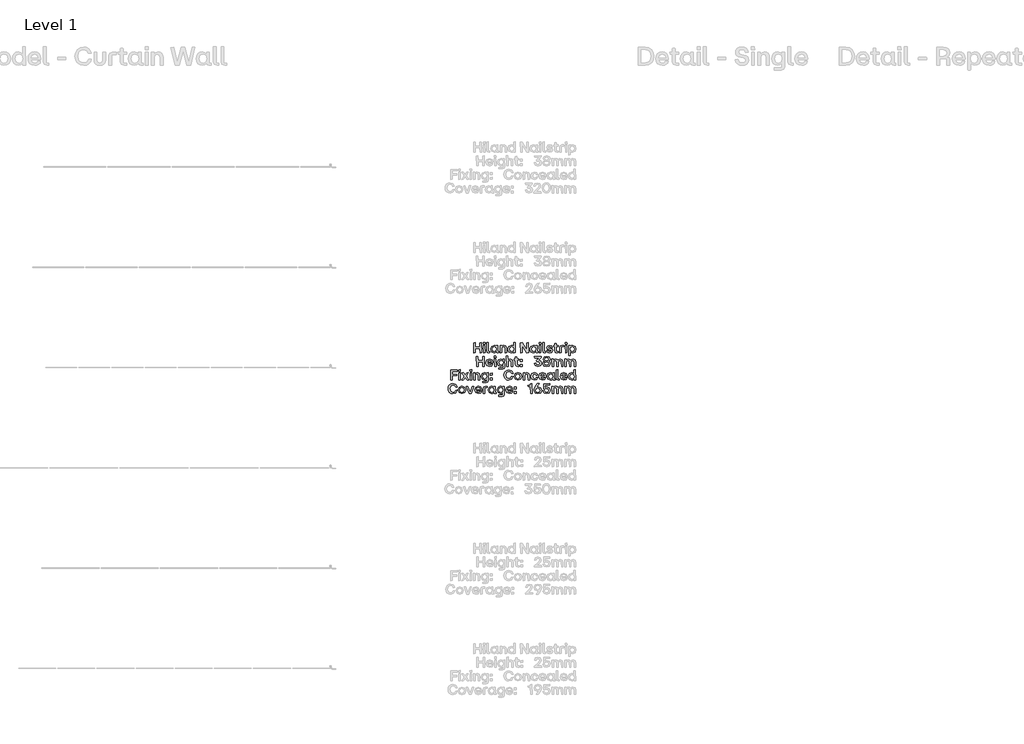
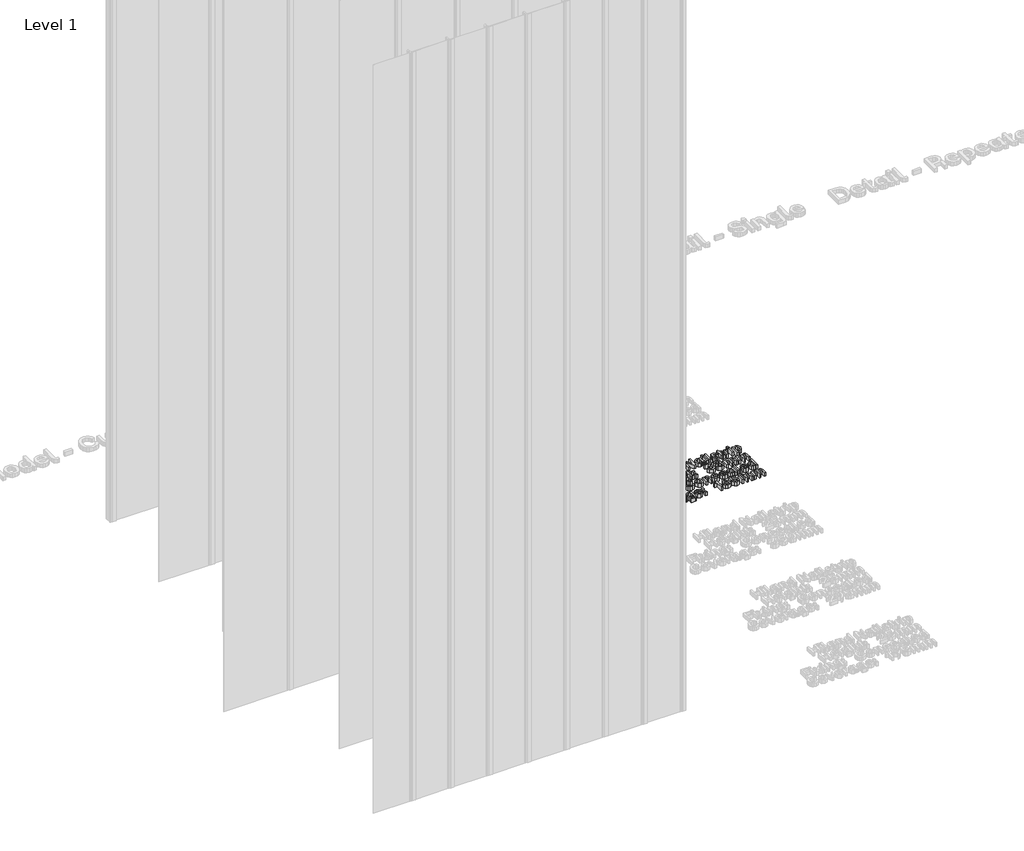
# One storey, part 27 of 64: 1 proxy.
"""IFC4 building model written with IfcOpenShell, lengths in millimetres."""

from ifc_helpers import new_model, si_unit, origin, origin_with_axes, place, context, project, spatial, polyline, outline, extrude, element, save

model = new_model("IFC4")

# Units and contexts
model_context = context("Model", 3, world=origin())
ifc_project = project(units=[si_unit("LENGTHUNIT", "METRE", prefix="MILLI")], contexts=[model_context])

# Site, building, storey
site = spatial("IfcSite", under=ifc_project)
building = spatial("IfcBuilding", under=site)
storey = spatial("IfcBuildingStorey", under=building, Name="Level 1", Elevation=0.0)

# Proxy
placement = place(None, origin())
element("IfcBuildingElementProxy", 1, Name="50mm", ObjectType="50mm", at=placement, inside=storey, context=model_context, shape_type="SweptSolid", body=[
    extrude(outline(polyline([(2520.0683519, -2933.5188866), (2519.3710201, -2911.5808277), (2495.5222721, -2911.5808277), (2495.5222721, -2932.8215548), (2488.0189817, -2933.5188866), (2487.2937566, -2884.2454206), (2494.7831003, -2883.5201955), (2495.5222721, -2904.6075096), (2519.3710201, -2904.6075096), (2519.3710201, -2884.2454206), (2526.8603638, -2883.5201955), (2527.5576956, -2932.8215548), (2520.0683519, -2933.5188866)])), origin_with_axes(), (0.0, 0.0, 1.0), 20.0),
    extrude(outline(polyline([(2537.6550603, -2933.5188866), (2536.9298352, -2897.8154977), (2544.1402462, -2897.1181659), (2544.837578, -2932.8215548), (2537.6550603, -2933.5188866)])), origin_with_axes(), (0.0, 0.0, 1.0), 20.0),
    extrude(outline(polyline([(2536.7206357, -2890.4516737), (2536.3719698, -2882.4044646), (2544.7678448, -2881.6652929), (2545.5070165, -2890.1030078), (2536.7206357, -2890.4516737)])), origin_with_axes(), (0.0, 0.0, 1.0), 20.0),
    extrude(outline(polyline([(2564.2373491, -2933.5188866), (2556.5388058, -2930.8690257), (2553.8889449, -2923.1565359), (2553.8889449, -2882.8228637), (2561.0993559, -2882.083692), (2561.7966877, -2927.2429003), (2568.4631799, -2927.2429003), (2569.1605117, -2932.8215548), (2564.2373491, -2933.5188866)])), origin_with_axes(), (0.0, 0.0, 1.0), 20.0),
    extrude(outline(polyline([(2589.3273478, -2933.9372857), (2577.5563867, -2928.8955767), (2573.1771429, -2915.3882594), (2577.5563867, -2901.7484491), (2589.3273478, -2896.6579269), (2595.9450267, -2898.2617901), (2600.9309491, -2902.6549805), (2601.2517218, -2897.8154977), (2608.4342395, -2897.1181659), (2609.1594646, -2927.2429003), (2613.1063626, -2927.2429003), (2613.8036944, -2932.8215548), (2607.8066408, -2933.5188866), (2603.151951, -2932.2113895), (2601.6003877, -2928.288898), (2596.2448794, -2932.3334225), (2589.3273478, -2933.9372857)]), holes=[polyline([(2581.2382987, -2915.3882594), (2583.9927594, -2924.2792401), (2591.5169696, -2927.521833), (2598.8807936, -2924.2931867), (2601.5306545, -2915.3882594), (2598.8598737, -2906.392679), (2591.5169696, -2903.1152195), (2583.9927594, -2906.392679), (2581.2382987, -2915.3882594)])]), origin_with_axes(), (0.0, 0.0, 1.0), 20.0),
    extrude(outline(polyline([(2620.6654395, -2933.5188866), (2619.9402144, -2897.8154977), (2626.8019595, -2897.1181659), (2627.4992913, -2902.6549805), (2632.6630334, -2898.1571903), (2639.2841989, -2896.6579269), (2648.8446181, -2900.8419178), (2652.1569442, -2913.0870644), (2652.1569442, -2932.8215548), (2644.9325866, -2933.5188866), (2644.2073616, -2913.0870644), (2642.2548325, -2905.7092939), (2636.0834459, -2903.3941522), (2629.8562728, -2905.7441604), (2627.8479572, -2913.0870644), (2627.8479572, -2932.8215548), (2620.6654395, -2933.5188866)])), origin_with_axes(), (0.0, 0.0, 1.0), 20.0),
    extrude(outline(polyline([(2675.0154811, -2933.9372857), (2663.2445201, -2928.8955767), (2658.8652763, -2915.3882594), (2663.2445201, -2901.7484491), (2675.0154811, -2896.6579269), (2681.63316, -2898.2617901), (2686.6190825, -2902.6549805), (2686.9398552, -2882.8228637), (2694.1223728, -2882.083692), (2694.8475979, -2932.8215548), (2687.9858529, -2933.5188866), (2687.2885211, -2928.0099653), (2681.9330127, -2932.3334225), (2675.0154811, -2933.9372857)]), holes=[polyline([(2666.9264321, -2915.3882594), (2669.6808927, -2924.2792401), (2677.205103, -2927.521833), (2684.568927, -2924.2931867), (2687.2187879, -2915.3882594), (2684.548007, -2906.392679), (2677.205103, -2903.1152195), (2669.6808927, -2906.392679), (2666.9264321, -2915.3882594)])]), origin_with_axes(), (0.0, 0.0, 1.0), 20.0),
    extrude(outline(polyline([(2721.8761791, -2933.5188866), (2721.150954, -2884.2454206), (2730.007068, -2883.5201955), (2753.2979506, -2920.7856077), (2753.5768834, -2884.2454206), (2760.7872943, -2883.5201955), (2761.4846261, -2932.8215548), (2752.670352, -2933.5188866), (2729.3794694, -2896.2395278), (2729.1005367, -2932.8215548), (2721.8761791, -2933.5188866)])), origin_with_axes(), (0.0, 0.0, 1.0), 20.0),
    extrude(outline(polyline([(2784.803402, -2933.9372857), (2773.032441, -2928.8955767), (2768.6531972, -2915.3882594), (2773.032441, -2901.7484491), (2784.803402, -2896.6579269), (2791.4210809, -2898.2617901), (2796.4070034, -2902.6549805), (2796.727776, -2897.8154977), (2803.9102937, -2897.1181659), (2804.6355188, -2927.2429003), (2808.5824169, -2927.2429003), (2809.2797487, -2932.8215548), (2803.2826951, -2933.5188866), (2798.6280052, -2932.2113895), (2797.076442, -2928.288898), (2791.7209336, -2932.3334225), (2784.803402, -2933.9372857)]), holes=[polyline([(2776.714353, -2915.3882594), (2779.4688136, -2924.2792401), (2786.9930239, -2927.521833), (2794.3568479, -2924.2931867), (2797.0067088, -2915.3882594), (2794.3359279, -2906.392679), (2786.9930239, -2903.1152195), (2779.4688136, -2906.392679), (2776.714353, -2915.3882594)])]), origin_with_axes(), (0.0, 0.0, 1.0), 20.0),
    extrude(outline(polyline([(2815.2070691, -2890.4516737), (2814.8584032, -2882.4044646), (2823.2542783, -2881.6652929), (2823.99345, -2890.1030078), (2815.2070691, -2890.4516737)])), origin_with_axes(), (0.0, 0.0, 1.0), 20.0),
    extrude(outline(polyline([(2816.1414938, -2933.5188866), (2815.4162687, -2897.8154977), (2822.6266796, -2897.1181659), (2823.3240115, -2932.8215548), (2816.1414938, -2933.5188866)])), origin_with_axes(), (0.0, 0.0, 1.0), 20.0),
    extrude(outline(polyline([(2842.7237825, -2933.5188866), (2835.0252393, -2930.8690257), (2832.3753784, -2923.1565359), (2832.3753784, -2882.8228637), (2839.5857894, -2882.083692), (2840.2831212, -2927.2429003), (2846.9496133, -2927.2429003), (2847.6469451, -2932.8215548), (2842.7237825, -2933.5188866)])), origin_with_axes(), (0.0, 0.0, 1.0), 20.0),
    extrude(outline(polyline([(2867.283809, -2933.9372857), (2856.5518724, -2930.9875721), (2852.0819755, -2922.5289372), (2859.0274004, -2921.7339789), (2862.109607, -2926.5455685), (2867.283809, -2927.8007657), (2871.7467327, -2926.6153017), (2873.420329, -2923.4354686), (2872.2209183, -2920.5764081), (2868.1624471, -2919.0841181), (2863.0719249, -2918.1775867), (2855.3454884, -2914.6351411), (2852.8490405, -2907.5363032), (2856.5100325, -2899.6215871), (2866.3772777, -2896.6579269), (2876.0701899, -2899.4123876), (2880.2960207, -2907.2294772), (2873.3505958, -2908.0244355), (2870.6031085, -2903.8613645), (2866.3772777, -2902.7944469), (2862.1235536, -2903.8962311), (2860.6591568, -2907.0900108), (2861.7051545, -2909.8584181), (2865.5125862, -2911.3716282), (2870.9517744, -2912.3897326), (2878.9641169, -2915.8763917), (2881.2304453, -2923.0170695), (2877.6043199, -2931.1130919), (2867.283809, -2933.9372857)])), origin_with_axes(), (0.0, 0.0, 1.0), 20.0),
    extrude(outline(polyline([(2903.0429845, -2933.5188866), (2895.3304946, -2930.8690257), (2892.6806337, -2923.1565359), (2892.6806337, -2903.3941522), (2886.4743806, -2903.3941522), (2885.7491555, -2897.8154977), (2892.6806337, -2897.1181659), (2892.6806337, -2887.104481), (2899.9049913, -2886.3792559), (2900.6023231, -2897.1181659), (2909.388704, -2897.1181659), (2910.1139291, -2902.6549805), (2900.6023231, -2903.3941522), (2900.6023231, -2927.2429003), (2909.388704, -2927.2429003), (2910.1139291, -2932.8215548), (2903.0429845, -2933.5188866)])), origin_with_axes(), (0.0, 0.0, 1.0), 20.0),
    extrude(outline(polyline([(2917.519593, -2933.5188866), (2916.8222612, -2907.4386768), (2919.4721221, -2899.7471068), (2927.1706653, -2897.1181659), (2937.3238165, -2897.1181659), (2938.0211483, -2903.1152195), (2924.7300039, -2903.8125513), (2924.7300039, -2932.8215548), (2917.519593, -2933.5188866)])), origin_with_axes(), (0.0, 0.0, 1.0), 20.0),
    extrude(outline(polyline([(2945.5662786, -2933.5188866), (2944.8410535, -2897.8154977), (2952.0514644, -2897.1181659), (2952.7487962, -2932.8215548), (2945.5662786, -2933.5188866)])), origin_with_axes(), (0.0, 0.0, 1.0), 20.0),
    extrude(outline(polyline([(2944.6318539, -2890.4516737), (2944.283188, -2882.4044646), (2952.6790631, -2881.6652929), (2953.4182348, -2890.1030078), (2944.6318539, -2890.4516737)])), origin_with_axes(), (0.0, 0.0, 1.0), 20.0),
    extrude(outline(polyline([(2962.5253883, -2947.0750171), (2961.8001632, -2897.8154977), (2968.6619083, -2897.1181659), (2969.3592401, -2902.5852473), (2974.7147484, -2898.2617901), (2981.63228, -2896.6579269), (2993.403241, -2901.7135826), (2997.7824848, -2915.2487931), (2993.403241, -2928.8607101), (2981.63228, -2933.9372857), (2975.0146011, -2932.3334225), (2970.0286786, -2927.9402321), (2969.707906, -2946.3776853), (2962.5253883, -2947.0750171)]), holes=[polyline([(2969.4289732, -2915.2487931), (2972.0997541, -2924.2443735), (2979.4426581, -2927.521833), (2986.9668684, -2924.2443735), (2989.7213291, -2915.2487931), (2986.9668684, -2906.3578124), (2979.4426581, -2903.1152195), (2972.0788341, -2906.3368925), (2969.4289732, -2915.2487931)])]), origin_with_axes(), (0.0, 0.0, 1.0), 20.0),
    extrude(outline(polyline([(2534.3497075, -3001.3705811), (2533.6523757, -2979.4325222), (2509.8036276, -2979.4325222), (2509.8036276, -3000.6732493), (2502.3003373, -3001.3705811), (2501.5751122, -2952.0971151), (2509.0644559, -2951.37189), (2509.8036276, -2972.459204), (2533.6523757, -2972.459204), (2533.6523757, -2952.0971151), (2541.1417194, -2951.37189), (2541.8390512, -3000.6732493), (2534.3497075, -3001.3705811)])), origin_with_axes(), (0.0, 0.0, 1.0), 20.0),
    extrude(outline(polyline([(2567.4869153, -3001.7889802), (2554.0841978, -2996.7472711), (2549.0773554, -2983.2399539), (2554.0632779, -2969.586197), (2567.4869153, -2964.5096214), (2579.7669286, -2969.5164638), (2584.2647188, -2983.1702207), (2584.2647188, -2985.0809099), (2557.2082444, -2985.8200816), (2560.2765044, -2992.8631329), (2567.4869153, -2995.3735275), (2573.2747694, -2994.0974102), (2576.2732962, -2990.520098), (2583.3581874, -2989.9343393), (2578.7000109, -2998.6998002), (2567.4869153, -3001.7889802)]), holes=[polyline([(2557.2779776, -2980.0322275), (2576.4824957, -2980.0322275), (2573.8396081, -2973.3866554), (2567.4869153, -2970.966914), (2560.3950508, -2973.2681089), (2557.2779776, -2980.0322275)])]), origin_with_axes(), (0.0, 0.0, 1.0), 20.0),
    extrude(outline(polyline([(2591.1683037, -2958.3033682), (2590.8196378, -2950.2561591), (2599.2155129, -2949.5169873), (2599.9546846, -2957.9547023), (2591.1683037, -2958.3033682)])), origin_with_axes(), (0.0, 0.0, 1.0), 20.0),
    extrude(outline(polyline([(2592.1027284, -3001.3705811), (2591.3775033, -2965.6671922), (2598.5879142, -2964.9698603), (2599.2852461, -3000.6732493), (2592.1027284, -3001.3705811)])), origin_with_axes(), (0.0, 0.0, 1.0), 20.0),
    extrude(outline(polyline([(2613.7758012, -3014.9267115), (2613.0366294, -3009.348057), (2634.2773565, -3008.6507252), (2634.2773565, -2995.7919266), (2628.9706614, -3000.185117), (2622.3529825, -3001.7889802), (2610.5820215, -2996.7124045), (2606.2027777, -2983.1004875), (2610.5820215, -2969.565277), (2622.3529825, -2964.5096214), (2629.2705141, -2966.1134845), (2634.3470897, -2970.4369418), (2634.6260224, -2965.6671922), (2641.4598742, -2964.9698603), (2642.1850993, -3004.9269733), (2639.6049716, -3012.3675038), (2632.1853611, -3014.9267115), (2613.7758012, -3014.9267115)]), holes=[polyline([(2614.2639334, -2983.1004875), (2617.0183941, -2992.0960679), (2624.5426044, -2995.3735275), (2631.8855084, -2992.0960679), (2634.5562892, -2983.1004875), (2631.9064284, -2974.1885869), (2624.5426044, -2970.966914), (2617.0183941, -2974.2095069), (2614.2639334, -2983.1004875)])]), origin_with_axes(), (0.0, 0.0, 1.0), 20.0),
    extrude(outline(polyline([(2651.9059048, -3001.3705811), (2651.1806797, -2950.6745581), (2658.3910907, -2949.9353864), (2659.0884225, -2970.2277422), (2664.1754581, -2965.9391516), (2670.5246642, -2964.5096214), (2680.0850834, -2968.6936122), (2683.3974095, -2980.9387589), (2683.3974095, -3000.6732493), (2676.1730519, -3001.3705811), (2675.4478269, -2980.9387589), (2673.4952978, -2973.5609883), (2667.3239112, -2971.2458467), (2661.0967381, -2973.5958549), (2659.0884225, -2980.9387589), (2659.0884225, -3000.6732493), (2651.9059048, -3001.3705811)])), origin_with_axes(), (0.0, 0.0, 1.0), 20.0),
    extrude(outline(polyline([(2706.6743455, -3001.3705811), (2698.9618556, -2998.7207202), (2696.3119947, -2991.0082303), (2696.3119947, -2971.2458467), (2690.1057416, -2971.2458467), (2689.3805165, -2965.6671922), (2696.3119947, -2964.9698603), (2696.3119947, -2954.9561755), (2703.5363523, -2954.2309504), (2704.2336842, -2964.9698603), (2713.020065, -2964.9698603), (2713.7452901, -2970.506675), (2704.2336842, -2971.2458467), (2704.2336842, -2995.0945947), (2713.020065, -2995.0945947), (2713.7452901, -3000.6732493), (2706.6743455, -3001.3705811)])), origin_with_axes(), (0.0, 0.0, 1.0), 20.0),
    extrude(outline(polyline([(2721.150954, -2977.7310326), (2720.4536222, -2968.1078535), (2729.9373348, -2967.3686818), (2730.6625599, -2977.0337007), (2721.150954, -2977.7310326)])), origin_with_axes(), (0.0, 0.0, 1.0), 20.0),
    extrude(outline(polyline([(2720.8022881, -3001.0219152), (2720.4536222, -2991.747402), (2729.9373348, -2991.0082303), (2730.6625599, -3000.6732493), (2720.8022881, -3001.0219152)])), origin_with_axes(), (0.0, 0.0, 1.0), 20.0),
    extrude(outline(polyline([(2808.2755909, -3001.7889802), (2794.8798467, -2997.7235357), (2789.0571261, -2985.959548), (2796.42095, -2985.1506431), (2800.584021, -2992.7236666), (2808.2755909, -2994.9551284), (2815.4162687, -2992.5493336), (2818.0661296, -2985.959548), (2815.2977223, -2979.0908296), (2806.6298878, -2976.8942344), (2801.1906997, -2976.8942344), (2800.4933678, -2972.8078699), (2813.8542454, -2958.6520341), (2791.1491215, -2958.3731014), (2790.4238964, -2952.0971151), (2824.1329164, -2951.37189), (2824.8302482, -2956.1834795), (2811.9296096, -2970.0882759), (2822.6545729, -2975.2136647), (2826.2667517, -2985.959548), (2821.4202956, -2997.5352561), (2808.2755909, -3001.7889802)])), origin_with_axes(), (0.0, 0.0, 1.0), 20.0),
    extrude(outline(polyline([(2865.4289064, -2998.1768014), (2851.3846437, -3001.7889802), (2837.3124877, -2998.1768014), (2832.3753784, -2987.8702371), (2834.8509064, -2980.1368273), (2841.5104252, -2975.8063967), (2835.9457173, -2971.1691402), (2834.0908147, -2964.370155), (2838.7768845, -2954.5796163), (2851.3776704, -2950.9534909), (2863.9645096, -2954.5796163), (2868.6366328, -2964.370155), (2866.7817301, -2971.1691402), (2861.2170223, -2975.527464), (2867.8765411, -2980.1368273), (2870.352069, -2987.8702371), (2865.4289064, -2998.1768014)]), holes=[polyline([(2840.5760005, -2986.9358125), (2843.2781613, -2992.9502994), (2851.3846437, -2994.9551284), (2859.4597461, -2992.9502994), (2862.1514469, -2986.9358125), (2859.4597461, -2981.3606446), (2851.3846437, -2979.5022554), (2843.2781613, -2981.3606446), (2840.5760005, -2986.9358125)]), polyline([(2842.3193301, -2965.4579926), (2844.6553917, -2970.8065276), (2851.3846437, -2972.6684036), (2858.1138957, -2970.8065276), (2860.4499573, -2965.4579926), (2858.1138957, -2959.788685), (2851.3846437, -2957.8152359), (2844.6553917, -2959.788685), (2842.3193301, -2965.4579926)])]), origin_with_axes(), (0.0, 0.0, 1.0), 20.0),
    extrude(outline(polyline([(2878.6224244, -3001.3705811), (2877.8971993, -2965.6671922), (2884.7589443, -2964.9698603), (2885.4562761, -2970.506675), (2890.4421986, -2966.0088848), (2896.8925179, -2964.5096214), (2903.1789642, -2966.0088848), (2907.394335, -2970.506675), (2913.2170557, -2966.0646713), (2920.4623332, -2964.5096214), (2929.7368464, -2968.6796656), (2932.9445727, -2980.9387589), (2932.9445727, -3000.6732493), (2925.7341617, -3001.3705811), (2925.0368299, -2980.9387589), (2923.154034, -2973.5609883), (2917.1848737, -2971.2458467), (2911.2784732, -2973.5958549), (2909.3747574, -2980.9387589), (2909.3747574, -3000.6732493), (2902.1643464, -3001.3705811), (2901.4670146, -2980.9387589), (2899.5981653, -2973.5609883), (2893.6847915, -2971.2458467), (2887.7086579, -2973.5958549), (2885.804942, -2980.9387589), (2885.804942, -3000.6732493), (2878.6224244, -3001.3705811)])), origin_with_axes(), (0.0, 0.0, 1.0), 20.0),
    extrude(outline(polyline([(2941.9959397, -3001.3705811), (2941.2707146, -2965.6671922), (2948.1324596, -2964.9698603), (2948.8297914, -2970.506675), (2953.8157139, -2966.0088848), (2960.2660332, -2964.5096214), (2966.5524795, -2966.0088848), (2970.7678503, -2970.506675), (2976.590571, -2966.0646713), (2983.8358485, -2964.5096214), (2993.1103617, -2968.6796656), (2996.318088, -2980.9387589), (2996.318088, -3000.6732493), (2989.1076771, -3001.3705811), (2988.4103452, -2980.9387589), (2986.5275493, -2973.5609883), (2980.558389, -2971.2458467), (2974.6519885, -2973.5958549), (2972.7482727, -2980.9387589), (2972.7482727, -3000.6732493), (2965.5378617, -3001.3705811), (2964.8405299, -2980.9387589), (2962.9716806, -2973.5609883), (2957.0583069, -2971.2458467), (2951.0821732, -2973.5958549), (2949.1784574, -2980.9387589), (2949.1784574, -3000.6732493), (2941.9959397, -3001.3705811)])), origin_with_axes(), (0.0, 0.0, 1.0), 20.0),
    extrude(outline(polyline([(2374.6607219, -3069.2222755), (2373.9354969, -3019.9488095), (2405.5246281, -3019.2235844), (2406.2219599, -3025.527464), (2382.1640123, -3026.2247958), (2382.1640123, -3041.287163), (2404.0881245, -3041.287163), (2404.7854563, -3047.5631494), (2382.1640123, -3048.3023211), (2382.1640123, -3068.5249437), (2374.6607219, -3069.2222755)])), origin_with_axes(), (0.0, 0.0, 1.0), 20.0),
    extrude(outline(polyline([(2414.4783686, -3069.2222755), (2413.7531435, -3033.5188866), (2420.9635544, -3032.8215548), (2421.6608863, -3068.5249437), (2414.4783686, -3069.2222755)])), origin_with_axes(), (0.0, 0.0, 1.0), 20.0),
    extrude(outline(polyline([(2413.5439439, -3026.1550627), (2413.195278, -3018.1078535), (2421.5911531, -3017.3686818), (2422.3303248, -3025.8063967), (2413.5439439, -3026.1550627)])), origin_with_axes(), (0.0, 0.0, 1.0), 20.0),
    extrude(outline(polyline([(2428.5784179, -3069.2222755), (2441.3395901, -3050.7429824), (2429.1362833, -3033.658353), (2437.1277059, -3032.8215548), (2445.9140868, -3044.815662), (2454.1426022, -3033.2399539), (2462.2595445, -3032.8215548), (2450.6559431, -3049.9340775), (2463.696048, -3068.3436374), (2455.7046254, -3069.2222755), (2445.9838199, -3055.7916648), (2436.7093068, -3068.8038764), (2428.5784179, -3069.2222755)])), origin_with_axes(), (0.0, 0.0, 1.0), 20.0),
    extrude(outline(polyline([(2470.7112061, -3069.2222755), (2469.985981, -3033.5188866), (2477.196392, -3032.8215548), (2477.8937238, -3068.5249437), (2470.7112061, -3069.2222755)])), origin_with_axes(), (0.0, 0.0, 1.0), 20.0),
    extrude(outline(polyline([(2469.7767815, -3026.1550627), (2469.4281156, -3018.1078535), (2477.8239906, -3017.3686818), (2478.5631623, -3025.8063967), (2469.7767815, -3026.1550627)])), origin_with_axes(), (0.0, 0.0, 1.0), 20.0),
    extrude(outline(polyline([(2487.6703158, -3069.2222755), (2486.9450907, -3033.5188866), (2493.8068358, -3032.8215548), (2494.5041676, -3038.3583694), (2499.6679097, -3033.8605792), (2506.2890753, -3032.3613158), (2515.8494944, -3036.5453067), (2519.1618206, -3048.7904534), (2519.1618206, -3068.5249437), (2511.937463, -3069.2222755), (2511.2122379, -3048.7904534), (2509.2597088, -3041.4126828), (2503.0883222, -3039.0975411), (2496.8611491, -3041.4475493), (2494.8528335, -3048.7904534), (2494.8528335, -3068.5249437), (2487.6703158, -3069.2222755)])), origin_with_axes(), (0.0, 0.0, 1.0), 20.0),
    extrude(outline(polyline([(2533.4431761, -3082.778406), (2532.7040044, -3077.1997515), (2553.9447315, -3076.5024197), (2553.9447315, -3063.643621), (2548.6380364, -3068.0368114), (2542.0203574, -3069.6406746), (2530.2493964, -3064.564099), (2525.8701526, -3050.952182), (2530.2493964, -3037.4169715), (2542.0203574, -3032.3613158), (2548.9378891, -3033.965179), (2554.0144647, -3038.2886362), (2554.2933974, -3033.5188866), (2561.1272492, -3032.8215548), (2561.8524743, -3072.7786678), (2559.2723465, -3080.2191982), (2551.852736, -3082.778406), (2533.4431761, -3082.778406)]), holes=[polyline([(2533.9313084, -3050.952182), (2536.6857691, -3059.9477624), (2544.2099793, -3063.2252219), (2551.5528834, -3059.9477624), (2554.2236642, -3050.952182), (2551.5738033, -3042.0402814), (2544.2099793, -3038.8186084), (2536.6857691, -3042.0612013), (2533.9313084, -3050.952182)])]), origin_with_axes(), (0.0, 0.0, 1.0), 20.0),
    extrude(outline(polyline([(2571.1967206, -3045.582727), (2570.4993888, -3035.959548), (2579.9831014, -3035.2203762), (2580.7083265, -3044.8853952), (2571.1967206, -3045.582727)])), origin_with_axes(), (0.0, 0.0, 1.0), 20.0),
    extrude(outline(polyline([(2570.8480547, -3068.8736096), (2570.4993888, -3059.5990965), (2579.9831014, -3058.8599248), (2580.7083265, -3068.5249437), (2570.8480547, -3068.8736096)])), origin_with_axes(), (0.0, 0.0, 1.0), 20.0),
    extrude(outline(polyline([(2662.9516407, -3069.6406746), (2652.9449292, -3067.9269817), (2645.2394126, -3062.7859029), (2640.3232234, -3054.7160305), (2638.6844936, -3044.2159567), (2640.33717, -3033.8919591), (2645.2951992, -3025.7924501), (2653.0146624, -3020.5520015), (2662.9516407, -3018.8051853), (2677.1283965, -3023.4215219), (2684.0807947, -3035.7085085), (2676.7588107, -3036.5174134), (2671.5950686, -3028.3272513), (2662.9516407, -3025.8063967), (2651.2922528, -3030.743506), (2647.0524754, -3044.2159567), (2651.2713328, -3057.7999804), (2662.9516407, -3062.6673565), (2671.7659149, -3060.1813685), (2676.4519847, -3052.7234048), (2683.8715952, -3052.0679129), (2677.4073293, -3065.0382846), (2662.9516407, -3069.6406746)])), origin_with_axes(), (0.0, 0.0, 1.0), 20.0),
    extrude(outline(polyline([(2708.306102, -3069.6406746), (2695.1474506, -3064.5152858), (2690.1057416, -3051.0916483), (2695.1613973, -3037.5564378), (2708.306102, -3032.3613158), (2721.5763264, -3037.5564378), (2726.6459287, -3051.0916483), (2721.5763264, -3064.5152858), (2708.306102, -3069.6406746)]), holes=[polyline([(2698.1668974, -3051.0916483), (2700.8655715, -3059.9965756), (2708.306102, -3063.2252219), (2715.8442589, -3059.982629), (2718.5987195, -3051.0916483), (2715.8582055, -3042.0960679), (2708.306102, -3038.8186084), (2700.8655715, -3042.0960679), (2698.1668974, -3051.0916483)])]), origin_with_axes(), (0.0, 0.0, 1.0), 20.0),
    extrude(outline(polyline([(2734.916284, -3069.2222755), (2734.1910589, -3033.5188866), (2741.052804, -3032.8215548), (2741.7501358, -3038.3583694), (2746.9138779, -3033.8605792), (2753.5350435, -3032.3613158), (2763.0954626, -3036.5453067), (2766.4077887, -3048.7904534), (2766.4077887, -3068.5249437), (2759.1834311, -3069.2222755), (2758.4582061, -3048.7904534), (2756.505677, -3041.4126828), (2750.3342904, -3039.0975411), (2744.1071173, -3041.4475493), (2742.0988017, -3048.7904534), (2742.0988017, -3068.5249437), (2734.916284, -3069.2222755)])), origin_with_axes(), (0.0, 0.0, 1.0), 20.0),
    extrude(outline(polyline([(2791.4559475, -3069.6406746), (2778.1229632, -3064.5989656), (2773.1161208, -3051.0916483), (2778.1926964, -3037.5564378), (2791.4559475, -3032.3613158), (2802.5295767, -3035.7991616), (2807.7456187, -3044.8853952), (2800.7304607, -3045.6524602), (2797.1601218, -3040.3527384), (2791.4559475, -3038.8186084), (2783.8968707, -3042.0960679), (2781.1772766, -3051.0916483), (2783.9108173, -3060.0174956), (2791.4559475, -3063.2252219), (2797.3344547, -3061.7608251), (2800.3120616, -3057.0189688), (2807.3969528, -3056.3495302), (2802.7387763, -3066.2028288), (2791.4559475, -3069.6406746)])), origin_with_axes(), (0.0, 0.0, 1.0), 20.0),
    extrude(outline(polyline([(2831.6919932, -3069.6406746), (2818.2892758, -3064.5989656), (2813.2824333, -3051.0916483), (2818.2683558, -3037.4378914), (2831.6919932, -3032.3613158), (2843.9720065, -3037.3681582), (2848.4697967, -3051.0219152), (2848.4697967, -3052.9326043), (2821.4133223, -3053.6717761), (2824.4815823, -3060.7148274), (2831.6919932, -3063.2252219), (2837.4798473, -3061.9491047), (2840.4783741, -3058.3717925), (2847.5632653, -3057.7860338), (2842.9050888, -3066.5514947), (2831.6919932, -3069.6406746)]), holes=[polyline([(2821.4830555, -3047.883922), (2840.6875736, -3047.883922), (2838.0446861, -3041.2383498), (2831.6919932, -3038.8186084), (2824.6001287, -3041.1198034), (2821.4830555, -3047.883922)])]), origin_with_axes(), (0.0, 0.0, 1.0), 20.0),
    extrude(outline(polyline([(2869.5989507, -3069.6406746), (2857.8279896, -3064.5989656), (2853.4487458, -3051.0916483), (2857.8279896, -3037.4518381), (2869.5989507, -3032.3613158), (2876.2166296, -3033.965179), (2881.2025521, -3038.3583694), (2881.5233247, -3033.5188866), (2888.7058424, -3032.8215548), (2889.4310675, -3062.9462892), (2893.3779655, -3062.9462892), (2894.0752974, -3068.5249437), (2888.0782438, -3069.2222755), (2883.4235539, -3067.9147784), (2881.8719906, -3063.9922869), (2876.5164823, -3068.0368114), (2869.5989507, -3069.6406746)]), holes=[polyline([(2861.5099016, -3051.0916483), (2864.2643623, -3059.982629), (2871.7885726, -3063.2252219), (2879.1523965, -3059.9965756), (2881.8022574, -3051.0916483), (2879.1314766, -3042.0960679), (2871.7885726, -3038.8186084), (2864.2643623, -3042.0960679), (2861.5099016, -3051.0916483)])]), origin_with_axes(), (0.0, 0.0, 1.0), 20.0),
    extrude(outline(polyline([(2910.5602215, -3069.2222755), (2902.8616782, -3066.5724146), (2900.2118173, -3058.8599248), (2900.2118173, -3018.5262526), (2907.4222283, -3017.7870809), (2908.1195601, -3062.9462892), (2914.7860523, -3062.9462892), (2915.4833841, -3068.5249437), (2910.5602215, -3069.2222755)])), origin_with_axes(), (0.0, 0.0, 1.0), 20.0),
    extrude(outline(polyline([(2937.9095752, -3069.6406746), (2924.5068578, -3064.5989656), (2919.5000153, -3051.0916483), (2924.4859378, -3037.4378914), (2937.9095752, -3032.3613158), (2950.1895885, -3037.3681582), (2954.6873787, -3051.0219152), (2954.6873787, -3052.9326043), (2927.6309043, -3053.6717761), (2930.6991643, -3060.7148274), (2937.9095752, -3063.2252219), (2943.6974293, -3061.9491047), (2946.6959561, -3058.3717925), (2953.7808473, -3057.7860338), (2949.1226708, -3066.5514947), (2937.9095752, -3069.6406746)]), holes=[polyline([(2927.7006375, -3047.883922), (2946.9051556, -3047.883922), (2944.2622681, -3041.2383498), (2937.9095752, -3038.8186084), (2930.8177107, -3041.1198034), (2927.7006375, -3047.883922)])]), origin_with_axes(), (0.0, 0.0, 1.0), 20.0),
    extrude(outline(polyline([(2975.8165327, -3069.6406746), (2964.0455716, -3064.5989656), (2959.6663278, -3051.0916483), (2964.0455716, -3037.4518381), (2975.8165327, -3032.3613158), (2982.4342116, -3033.965179), (2987.4201341, -3038.3583694), (2987.7409067, -3018.5262526), (2994.9234244, -3017.7870809), (2995.6486495, -3068.5249437), (2988.7869044, -3069.2222755), (2988.0895726, -3063.7133542), (2982.7340643, -3068.0368114), (2975.8165327, -3069.6406746)]), holes=[polyline([(2967.7274836, -3051.0916483), (2970.4819443, -3059.982629), (2978.0061546, -3063.2252219), (2985.3699785, -3059.9965756), (2988.0198394, -3051.0916483), (2985.3490586, -3042.0960679), (2978.0061546, -3038.8186084), (2970.4819443, -3042.0960679), (2967.7274836, -3051.0916483)])]), origin_with_axes(), (0.0, 0.0, 1.0), 20.0),
    extrude(outline(polyline([(2384.4652073, -3137.4923691), (2374.4584957, -3135.7786761), (2366.7529792, -3130.6375973), (2361.8367899, -3122.5677249), (2360.1980601, -3112.0676511), (2361.8507365, -3101.7436536), (2366.8087657, -3093.6441446), (2374.5282289, -3088.403696), (2384.4652073, -3086.6568798), (2398.6419631, -3091.2732164), (2405.5943612, -3103.560203), (2398.2723772, -3104.3691079), (2393.1086351, -3096.1789457), (2384.4652073, -3093.6580912), (2372.8058193, -3098.5952004), (2368.5660419, -3112.0676511), (2372.7848994, -3125.6516749), (2384.4652073, -3130.5190509), (2393.2794814, -3128.033063), (2397.9655512, -3120.5750992), (2405.3851617, -3119.9196073), (2398.9208958, -3132.8899791), (2384.4652073, -3137.4923691)])), origin_with_axes(), (0.0, 0.0, 1.0), 20.0),
    extrude(outline(polyline([(2429.8196685, -3137.4923691), (2416.6610171, -3132.3669802), (2411.6193081, -3118.9433428), (2416.6749638, -3105.4081323), (2429.8196685, -3100.2130103), (2443.0898929, -3105.4081323), (2448.1594952, -3118.9433428), (2443.0898929, -3132.3669802), (2429.8196685, -3137.4923691)]), holes=[polyline([(2419.6804639, -3118.9433428), (2422.379138, -3127.8482701), (2429.8196685, -3131.0769164), (2437.3578254, -3127.8343234), (2440.1122861, -3118.9433428), (2437.371772, -3109.9477624), (2429.8196685, -3106.6703029), (2422.379138, -3109.9477624), (2419.6804639, -3118.9433428)])]), origin_with_axes(), (0.0, 0.0, 1.0), 20.0),
    extrude(outline(polyline([(2466.2622291, -3137.07397), (2451.8693005, -3101.5100474), (2459.1215513, -3100.6732493), (2470.5577931, -3130.5887841), (2481.3943295, -3101.2311147), (2488.7581535, -3100.6732493), (2475.6483153, -3136.5161045), (2466.2622291, -3137.07397)])), origin_with_axes(), (0.0, 0.0, 1.0), 20.0),
    extrude(outline(polyline([(2511.2540778, -3137.4923691), (2497.8513603, -3132.45066), (2492.8445179, -3118.9433428), (2497.8304404, -3105.2895859), (2511.2540778, -3100.2130103), (2523.534091, -3105.2198527), (2528.0318812, -3118.8736096), (2528.0318812, -3120.7842988), (2500.9754068, -3121.5234705), (2504.0436668, -3128.5665218), (2511.2540778, -3131.0769164), (2517.0419319, -3129.8007992), (2520.0404587, -3126.2234869), (2527.1253499, -3125.6377282), (2522.4671734, -3134.4031891), (2511.2540778, -3137.4923691)]), holes=[polyline([(2501.04514, -3115.7356165), (2520.2496582, -3115.7356165), (2517.6067706, -3109.0900443), (2511.2540778, -3106.6703029), (2504.1622132, -3108.9714978), (2501.04514, -3115.7356165)])]), origin_with_axes(), (0.0, 0.0, 1.0), 20.0),
    extrude(outline(polyline([(2535.4933317, -3137.07397), (2534.7959999, -3110.9937601), (2537.4458607, -3103.3021902), (2545.144404, -3100.6732493), (2555.2975552, -3100.6732493), (2555.994887, -3106.6703029), (2542.7037426, -3107.3676347), (2542.7037426, -3136.3766382), (2535.4933317, -3137.07397)])), origin_with_axes(), (0.0, 0.0, 1.0), 20.0),
    extrude(outline(polyline([(2576.8311616, -3137.4923691), (2565.0602006, -3132.45066), (2560.6809568, -3118.9433428), (2565.0602006, -3105.3035325), (2576.8311616, -3100.2130103), (2583.4488406, -3101.8168734), (2588.434763, -3106.2100639), (2588.7555357, -3101.3705811), (2595.9380534, -3100.6732493), (2596.6632784, -3130.7979836), (2600.6101765, -3130.7979836), (2601.3075083, -3136.3766382), (2595.3104547, -3137.07397), (2590.6557649, -3135.7664728), (2589.1042016, -3131.8439814), (2583.7486932, -3135.8885059), (2576.8311616, -3137.4923691)]), holes=[polyline([(2568.7421126, -3118.9433428), (2571.4965733, -3127.8343234), (2579.0207835, -3131.0769164), (2586.3846075, -3127.8482701), (2589.0344684, -3118.9433428), (2586.3636875, -3109.9477624), (2579.0207835, -3106.6703029), (2571.4965733, -3109.9477624), (2568.7421126, -3118.9433428)])]), origin_with_axes(), (0.0, 0.0, 1.0), 20.0),
    extrude(outline(polyline([(2612.8832164, -3150.6301005), (2612.1440447, -3145.0514459), (2633.3847718, -3144.3541141), (2633.3847718, -3131.4953155), (2628.0780767, -3135.8885059), (2621.4603978, -3137.4923691), (2609.6894367, -3132.4157935), (2605.3101929, -3118.8038764), (2609.6894367, -3105.2686659), (2621.4603978, -3100.2130103), (2628.3779294, -3101.8168734), (2633.454505, -3106.1403307), (2633.7334377, -3101.3705811), (2640.5672895, -3100.6732493), (2641.2925146, -3140.6303622), (2638.7123869, -3148.0708927), (2631.2927764, -3150.6301005), (2612.8832164, -3150.6301005)]), holes=[polyline([(2613.3713487, -3118.8038764), (2616.1258094, -3127.7994568), (2623.6500197, -3131.0769164), (2630.9929237, -3127.7994568), (2633.6637045, -3118.8038764), (2631.0138436, -3109.8919758), (2623.6500197, -3106.6703029), (2616.1258094, -3109.9128958), (2613.3713487, -3118.8038764)])]), origin_with_axes(), (0.0, 0.0, 1.0), 20.0),
    extrude(outline(polyline([(2666.5638195, -3137.4923691), (2653.1611021, -3132.45066), (2648.1542596, -3118.9433428), (2653.1401821, -3105.2895859), (2666.5638195, -3100.2130103), (2678.8438328, -3105.2198527), (2683.341623, -3118.8736096), (2683.341623, -3120.7842988), (2656.2851486, -3121.5234705), (2659.3534086, -3128.5665218), (2666.5638195, -3131.0769164), (2672.3516736, -3129.8007992), (2675.3502004, -3126.2234869), (2682.4350916, -3125.6377282), (2677.7769151, -3134.4031891), (2666.5638195, -3137.4923691)]), holes=[polyline([(2656.3548818, -3115.7356165), (2675.5593999, -3115.7356165), (2672.9165124, -3109.0900443), (2666.5638195, -3106.6703029), (2659.471955, -3108.9714978), (2656.3548818, -3115.7356165)])]), origin_with_axes(), (0.0, 0.0, 1.0), 20.0),
    extrude(outline(polyline([(2690.8030734, -3113.4344215), (2690.1057416, -3103.8112424), (2699.5894543, -3103.0720707), (2700.3146794, -3112.7370896), (2690.8030734, -3113.4344215)])), origin_with_axes(), (0.0, 0.0, 1.0), 20.0),
    extrude(outline(polyline([(2690.4544075, -3136.7253041), (2690.1057416, -3127.4507909), (2699.5894543, -3126.7116192), (2700.3146794, -3136.3766382), (2690.4544075, -3136.7253041)])), origin_with_axes(), (0.0, 0.0, 1.0), 20.0),
    extrude(outline(polyline([(2771.1635917, -3137.07397), (2770.42442, -3102.0679129), (2759.3786841, -3102.0679129), (2758.6395123, -3095.7919266), (2770.7730859, -3095.0945947), (2770.7730859, -3087.800504), (2778.0671767, -3087.0752789), (2778.7924018, -3136.3766382), (2771.1635917, -3137.07397)])), origin_with_axes(), (0.0, 0.0, 1.0), 20.0),
    extrude(outline(polyline([(2821.4830555, -3132.9736589), (2807.5782591, -3137.4923691), (2793.6455694, -3132.9736589), (2788.638727, -3120.3658997), (2790.3820565, -3111.6562253), (2795.9328178, -3101.7889802), (2806.0022892, -3087.5215712), (2814.2726445, -3087.0752789), (2802.9340292, -3104.787507), (2809.9770805, -3103.3510034), (2821.9572411, -3108.0091799), (2826.4759513, -3120.3658997), (2821.4830555, -3132.9736589)]), holes=[polyline([(2796.8393491, -3120.3658997), (2799.6286764, -3127.9737898), (2807.5782591, -3130.6585173), (2815.5069218, -3127.9737898), (2818.2753291, -3120.372873), (2815.5069218, -3112.7719562), (2807.5782591, -3110.0872288), (2799.7123562, -3112.7859029), (2796.8393491, -3120.3658997)])]), origin_with_axes(), (0.0, 0.0, 1.0), 20.0),
    extrude(outline(polyline([(2851.8030428, -3137.4923691), (2838.6025515, -3133.7965104), (2832.7937775, -3123.0854938), (2840.1576015, -3122.2905355), (2844.365999, -3128.7234215), (2851.8030428, -3130.6585173), (2859.2087066, -3127.9737898), (2861.802781, -3120.3658997), (2859.2226533, -3113.0648356), (2851.6635764, -3110.575361), (2841.3012256, -3114.5083125), (2836.4617428, -3114.2293797), (2837.5077406, -3087.800504), (2867.1443427, -3087.0752789), (2867.8695678, -3093.3791585), (2844.1602861, -3094.0764903), (2843.3653278, -3106.740036), (2848.5395299, -3104.5434408), (2854.2437041, -3103.7415092), (2865.7984923, -3108.1695663), (2870.0034031, -3120.3658997), (2865.1918136, -3132.9736589), (2851.8030428, -3137.4923691)])), origin_with_axes(), (0.0, 0.0, 1.0), 20.0),
    extrude(outline(polyline([(2878.6224244, -3137.07397), (2877.8971993, -3101.3705811), (2884.7589443, -3100.6732493), (2885.4562761, -3106.2100639), (2890.4421986, -3101.7122737), (2896.8925179, -3100.2130103), (2903.1789642, -3101.7122737), (2907.394335, -3106.2100639), (2913.2170557, -3101.7680602), (2920.4623332, -3100.2130103), (2929.7368464, -3104.3830545), (2932.9445727, -3116.6421478), (2932.9445727, -3136.3766382), (2925.7341617, -3137.07397), (2925.0368299, -3116.6421478), (2923.154034, -3109.2643772), (2917.1848737, -3106.9492356), (2911.2784732, -3109.2992438), (2909.3747574, -3116.6421478), (2909.3747574, -3136.3766382), (2902.1643464, -3137.07397), (2901.4670146, -3116.6421478), (2899.5981653, -3109.2643772), (2893.6847915, -3106.9492356), (2887.7086579, -3109.2992438), (2885.804942, -3116.6421478), (2885.804942, -3136.3766382), (2878.6224244, -3137.07397)])), origin_with_axes(), (0.0, 0.0, 1.0), 20.0),
    extrude(outline(polyline([(2941.9959397, -3137.07397), (2941.2707146, -3101.3705811), (2948.1324596, -3100.6732493), (2948.8297914, -3106.2100639), (2953.8157139, -3101.7122737), (2960.2660332, -3100.2130103), (2966.5524795, -3101.7122737), (2970.7678503, -3106.2100639), (2976.590571, -3101.7680602), (2983.8358485, -3100.2130103), (2993.1103617, -3104.3830545), (2996.318088, -3116.6421478), (2996.318088, -3136.3766382), (2989.1076771, -3137.07397), (2988.4103452, -3116.6421478), (2986.5275493, -3109.2643772), (2980.558389, -3106.9492356), (2974.6519885, -3109.2992438), (2972.7482727, -3116.6421478), (2972.7482727, -3136.3766382), (2965.5378617, -3137.07397), (2964.8405299, -3116.6421478), (2962.9716806, -3109.2643772), (2957.0583069, -3106.9492356), (2951.0821732, -3109.2992438), (2949.1784574, -3116.6421478), (2949.1784574, -3136.3766382), (2941.9959397, -3137.07397)])), origin_with_axes(), (0.0, 0.0, 1.0), 20.0),
])

save(model, "model.ifc")
